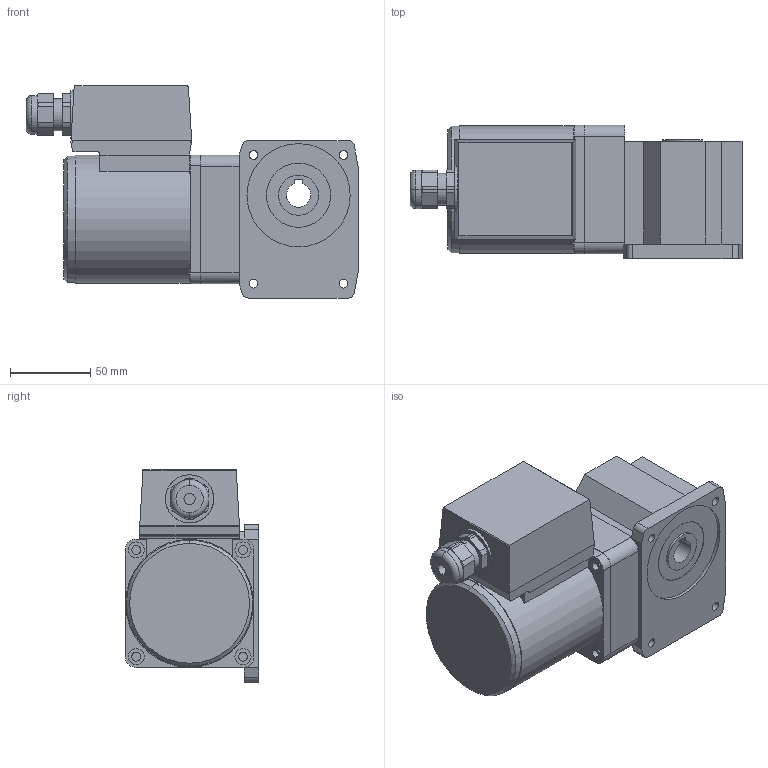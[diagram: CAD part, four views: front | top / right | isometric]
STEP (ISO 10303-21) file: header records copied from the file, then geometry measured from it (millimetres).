
FILE_DESCRIPTION(('starvars output'),'2;1');
FILE_NAME('4RK25GN-CW2TE _ 4GN25RH.stp','13:43:43 2015/05/11',( 'Thomas Industrial Network Germany GmbH'),( 'Thomas Industrial Network Germany GmbH'),'unknown preprocess','ACIS' ,'unknown authorization');
FILE_SCHEMA(('AUTOMOTIVE_DESIGN_CC2 {UNKNOWN IMPLEMENTATION LEVEL}'));
Length unit declared in the file: millimetre
Products named in the file (1): PRODUCT_ID_1763
Bounding box: 206.62 x 83 x 132 mm (x, y, z)
Volume: 1186230.3 mm3; surface area: 98113.1 mm2
Topology: 2 solids, 2 shells, 204 faces, 514 edges, 338 vertices
Faces by surface type: plane 102, cylinder 90, torus 10, cone 2
Entity records: 7326 total; most frequent: CARTESIAN_POINT 1073, ORIENTED_EDGE 1028, DIRECTION 830, EDGE_CURVE 514, VERTEX_POINT 338, VECTOR 304, LINE 304, AXIS2_PLACEMENT_3D 263
